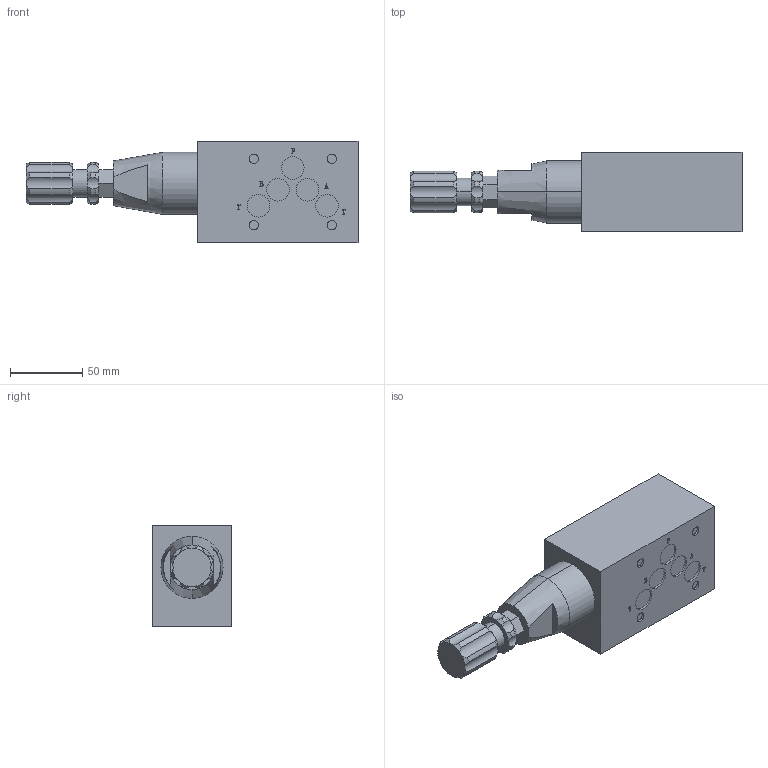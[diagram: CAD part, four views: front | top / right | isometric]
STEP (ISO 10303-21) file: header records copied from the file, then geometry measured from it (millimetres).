
FILE_DESCRIPTION (( 'STEP AP203' ), '1' );
FILE_NAME ('7DY-03P詁樓宒祛霜概.STEP', '2020-11-12T01:09:45', ( 'chen' ), ( '' ), 'SwSTEP 2.0', 'SolidWorks 2018', '' );
FILE_SCHEMA (( 'CONFIG_CONTROL_DESIGN' ));
Length unit declared in the file: millimetre
Products named in the file (1): 7DY-03P詁樓宒祛霜概
Bounding box: 230 x 55 x 70 mm (x, y, z)
Volume: 515828.2 mm3; surface area: 54351.7 mm2
Topology: 1 solids, 1 shells, 459 faces, 1231 edges, 820 vertices
Faces by surface type: plane 259, bspline 100, cylinder 66, cone 34
Entity records: 18728 total; most frequent: CARTESIAN_POINT 7823, ORIENTED_EDGE 2462, DIRECTION 1853, EDGE_CURVE 1231, VERTEX_POINT 820, LINE 793, VECTOR 793, AXIS2_PLACEMENT_3D 530
